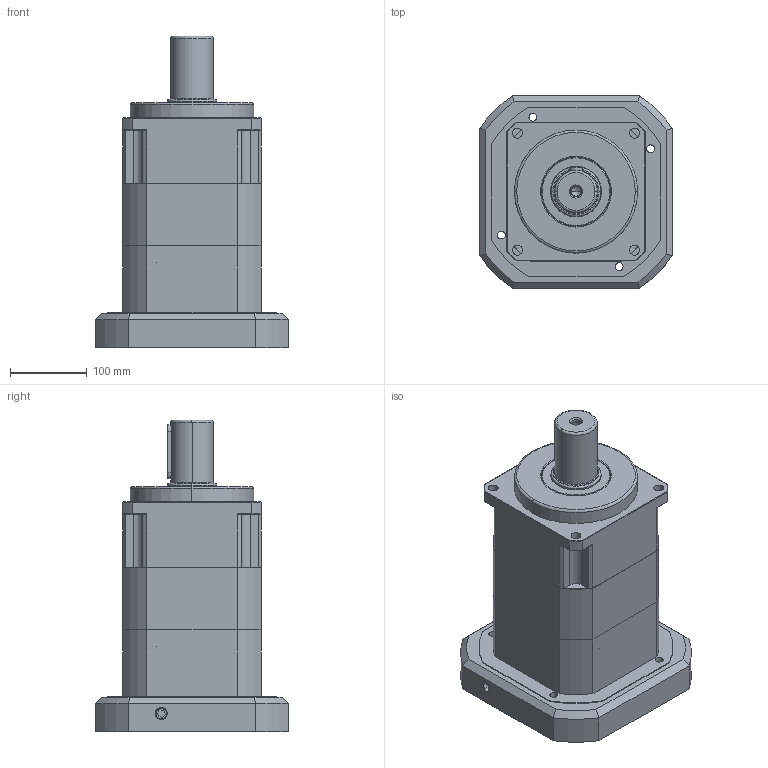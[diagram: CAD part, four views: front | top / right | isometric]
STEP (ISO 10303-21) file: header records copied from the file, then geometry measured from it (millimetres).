
FILE_DESCRIPTION (( 'STEP AP203' ), '1' );
FILE_NAME ('SB180A-2-230M12.step', '2013-08-05T02:07:01', ( 'ok' ), ( '' ), 'SwSTEP 2.0', 'SolidWorks 2012', '' );
FILE_SCHEMA (( 'CONFIG_CONTROL_DESIGN' ));
Length unit declared in the file: millimetre
Products named in the file (14): SB180A-2-230M12; 7CGBM_7CG180B108S-2; PT-油栓_PT-3-8; 7MP180A馬達盤_7MP180A-230-A; 內六角承窩頭螺栓_MO-10-1.5-35G; 迫緊環_7SS58; SB-SE連接軸_7WA180B42; 油封_OS-608012TC; SB-SE後蓋_7EV180A; SB-SE180出力軸端_SB; 鍵_QK-D-161070; 7WTSBM_7WT180SB55-3; 油封_OS-659012TC; 7CGSBM_7CG180A108S
Assembly tree (18 placements, depth 3):
  SB180A-2-230M12
    SB-SE180出力軸端_SB
      7CGSBM_7CG180A108S
      油封_OS-659012TC
      7WTSBM_7WT180SB55-3
      鍵_QK-D-161070
    SB-SE後蓋_7EV180A
    油封_OS-608012TC
    SB-SE連接軸_7WA180B42
    迫緊環_7SS58
    內六角承窩頭螺栓_MO-10-1.5-35G  x5
    7MP180A馬達盤_7MP180A-230-A
    PT-油栓_PT-3-8  x2
    7CGBM_7CG180B108S-2
Bounding box: 250 x 250 x 404.5 mm (x, y, z)
Volume: 3804821.8 mm3; surface area: 785358.3 mm2
Topology: 17 solids, 17 shells, 738 faces, 1795 edges, 1110 vertices
Faces by surface type: cylinder 300, plane 247, cone 138, torus 29, bspline 24
Entity records: 21246 total; most frequent: CARTESIAN_POINT 4755, DIRECTION 3316, ORIENTED_EDGE 2994, EDGE_CURVE 1497, AXIS2_PLACEMENT_3D 1335, VERTEX_POINT 954, CIRCLE 726, EDGE_LOOP 715
